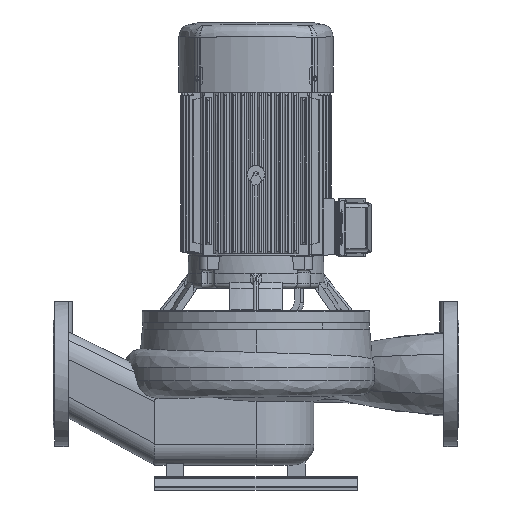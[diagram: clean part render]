
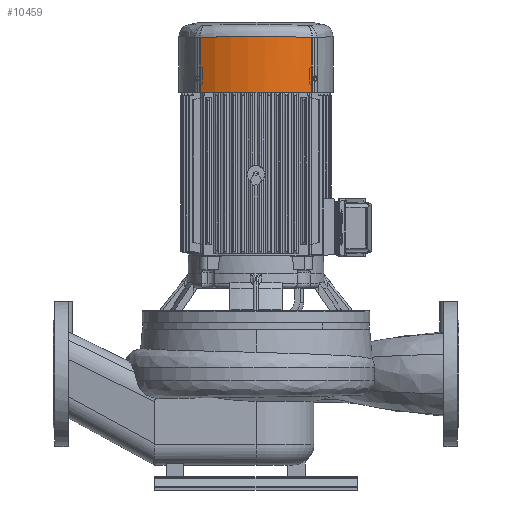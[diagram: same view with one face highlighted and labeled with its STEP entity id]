
A CAD part, left-side view. The second image highlights one B-rep face of the part: STEP entity #10459.
In plain terms, the highlighted cylindrical face has radius 183 mm (diameter 366 mm), a partial arc.
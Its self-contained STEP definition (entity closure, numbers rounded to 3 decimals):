
#10459=ADVANCED_FACE('',(#22294),#22295,.T.);
#10531=EDGE_CURVE('',#22413,#22414,#22415,.T.);
#22294=FACE_OUTER_BOUND('',#61768,.T.);
#22295=CYLINDRICAL_SURFACE('',#61769,183.0);
#22413=VERTEX_POINT('',#62905);
#22414=VERTEX_POINT('',#62906);
#22415=CIRCLE('',#62907,183.0);
#61768=EDGE_LOOP('',(#94325,#94326,#94327,#94328));
#61769=AXIS2_PLACEMENT_3D('',#94329,#94330,#94331);
#62905=CARTESIAN_POINT('',(-96.937,105.217,0.0));
#62906=CARTESIAN_POINT('',(96.937,105.217,0.0));
#62907=AXIS2_PLACEMENT_3D('',#94575,#94576,#94577);
#94325=ORIENTED_EDGE('',*,*,#112783,.F.);
#94326=ORIENTED_EDGE('',*,*,#109184,.F.);
#94327=ORIENTED_EDGE('',*,*,#10531,.F.);
#94328=ORIENTED_EDGE('',*,*,#112805,.F.);
#94329=CARTESIAN_POINT('',(0.0,-50.,0.0));
#94330=DIRECTION('',(0.0,0.0,1.0));
#94331=DIRECTION('',(1.0,0.0,0.0));
#94575=CARTESIAN_POINT('',(0.0,-50.,0.0));
#94576=DIRECTION('',(0.0,0.0,-1.0));
#94577=DIRECTION('',(1.0,0.0,0.0));
#109184=EDGE_CURVE('',#22414,#124560,#124561,.T.);
#112783=EDGE_CURVE('',#124560,#129953,#129954,.T.);
#112805=EDGE_CURVE('',#129953,#22413,#129977,.T.);
#124560=VERTEX_POINT('',#158735);
#124561=LINE('',#158736,#158737);
#129953=VERTEX_POINT('',#167070);
#129954=B_SPLINE_CURVE_WITH_KNOTS('',3,(#167071,#167072,#167073,#167074,#167075,#167076,#167077,#167078,#167079,#167080,#167081,#167082,#167083),.UNSPECIFIED.,.F.,.F.,(4,3,3,3,4),(-179.874,-156.813,-119.916,-60.88,-0.0),.UNSPECIFIED.);
#129977=LINE('',#167143,#167144);
#158735=CARTESIAN_POINT('',(96.937,105.217,94.711));
#158736=CARTESIAN_POINT('',(96.937,105.217,0.0));
#158737=VECTOR('',#187209,1.0);
#167070=CARTESIAN_POINT('',(-96.937,105.217,94.711));
#167071=CARTESIAN_POINT('',(96.937,105.217,94.711));
#167072=CARTESIAN_POINT('',(89.577,109.813,95.004));
#167073=CARTESIAN_POINT('',(81.837,113.916,95.271));
#167074=CARTESIAN_POINT('',(73.824,117.449,95.505));
#167075=CARTESIAN_POINT('',(61.003,123.101,95.879));
#167076=CARTESIAN_POINT('',(47.486,127.278,96.165));
#167077=CARTESIAN_POINT('',(33.812,129.849,96.342));
#167078=CARTESIAN_POINT('',(11.933,133.963,96.625));
#167079=CARTESIAN_POINT('',(-10.975,134.021,96.629));
#167080=CARTESIAN_POINT('',(-32.868,130.024,96.354));
#167081=CARTESIAN_POINT('',(-55.445,125.902,96.07));
#167082=CARTESIAN_POINT('',(-77.507,117.351,95.484));
#167083=CARTESIAN_POINT('',(-96.937,105.217,94.711));
#167143=CARTESIAN_POINT('',(-96.937,105.217,0.0));
#167144=VECTOR('',#190031,1.0);
#187209=DIRECTION('',(0.0,0.0,1.0));
#190031=DIRECTION('',(-0.0,-0.0,-1.0));
